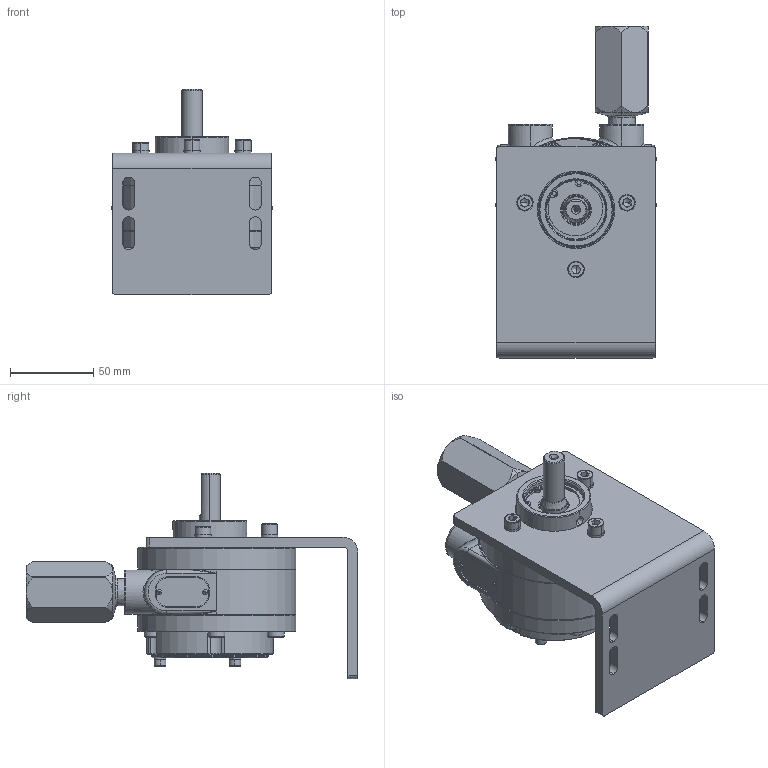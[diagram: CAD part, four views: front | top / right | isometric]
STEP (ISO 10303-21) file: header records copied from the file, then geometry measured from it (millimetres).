
FILE_DESCRIPTION (( 'STEP AP214' ), '1' );
FILE_NAME ('2VMS-Foot (Alu. End Plates)_23-04-26.STEP', '2026-04-23T10:40:58', ( '' ), ( '' ), 'SwSTEP 2.0', 'SolidWorks 2017', '' );
FILE_SCHEMA (( 'AUTOMOTIVE_DESIGN' ));
Length unit declared in the file: millimetre
Products named in the file (2): 2VMS-Foot (Alu. End Plates)_23-04-26
Bounding box: 96.6 x 199.4 x 123.4 mm (x, y, z)
Surface area: 134087.2 mm2 (no closed solid volume)
Topology: 0 solids, 39 shells, 1126 faces, 2903 edges, 1863 vertices
Faces by surface type: plane 484, cylinder 350, cone 180, bspline 112
Entity records: 47434 total; most frequent: CARTESIAN_POINT 12547, DIRECTION 5722, ORIENTED_EDGE 5489, EDGE_CURVE 2851, AXIS2_PLACEMENT_3D 2168, VERTEX_POINT 1859, LINE 1386, VECTOR 1386
